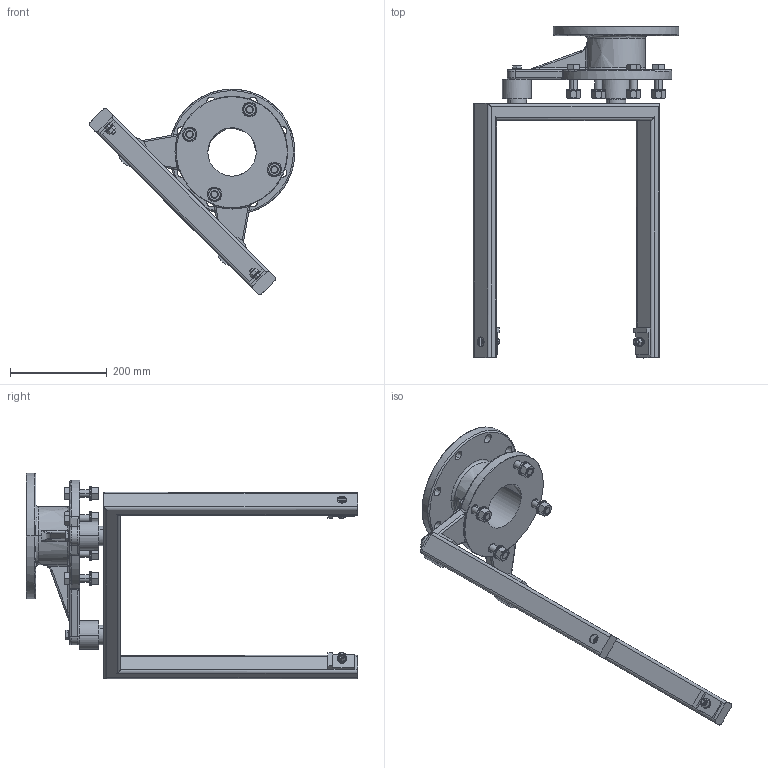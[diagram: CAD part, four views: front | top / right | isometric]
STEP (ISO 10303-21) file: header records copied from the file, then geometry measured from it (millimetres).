
FILE_DESCRIPTION((''),'2;1');
FILE_NAME('853010199_PMD_000_SW0001','2008-11-18T',('L0108624'),('Copyright by Leybold GmbH'),'PRO/ENGINEER BY PARAMETRIC TECHNOLOGY CORPORATION, 2007390','PRO/ENGINEER BY PARAMETRIC TECHNOLOGY CORPORATION, 2007390','');
FILE_SCHEMA(('AUTOMOTIVE_DESIGN { 1 0 10303 214 1 1 1 1 }'));
Length unit declared in the file: millimetre
Products named in the file (1): 853010199_PMD_000_SW0001
Bounding box: 425.62 x 686 x 425.45 mm (x, y, z)
Volume: 3089615.4 mm3; surface area: 756355 mm2
Topology: 1 solids, 2 shells, 675 faces, 1570 edges, 949 vertices
Faces by surface type: plane 221, cone 181, cylinder 134, extrusion 50, bspline 43, torus 42, sphere 4
Entity records: 33828 total; most frequent: CARTESIAN_POINT 14475, ORIENTED_EDGE 3108, DIRECTION 2789, EDGE_CURVE 1554, AXIS2_PLACEMENT_3D 1076, VERTEX_POINT 949, EDGE_LOOP 765, PRESENTATION_STYLE_ASSIGNMENT 706
